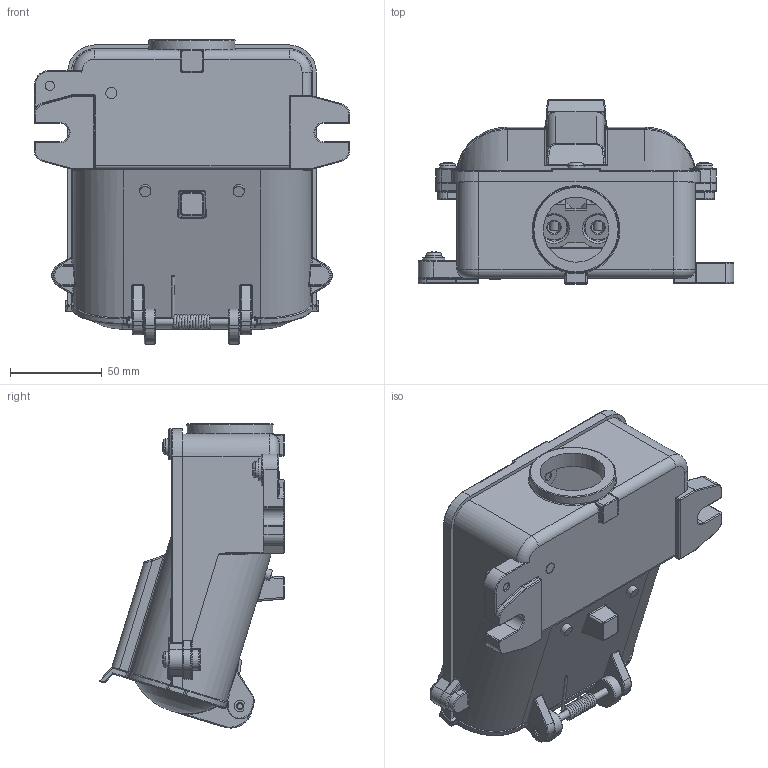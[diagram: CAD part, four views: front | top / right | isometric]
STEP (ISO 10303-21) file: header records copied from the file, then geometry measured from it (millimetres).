
FILE_DESCRIPTION(('Tomada Fixa 63A DIN 49450'),'2;1');
FILE_NAME('E:\WorkFolder\Bibl\3DWeb\Serie\PN\kp_pn_pnf63_step.stp','2022-06-08T11:11:05',('DIE'),('KAP Componentes Eletricos Ltda.'),'Autodesk Inventor 2011','Autodesk Inventor 2011','Direitos reservados. Proibido reproducao, cedencia ou revelacao de conteudo a terceiros, salvo com autorizacao.');
FILE_SCHEMA(('AUTOMOTIVE_DESIGN { 1 0 10303 214 1 1 1 1 }'));
Length unit declared in the file: millimetre
Products named in the file (1): Part17
Bounding box: 172 x 100.48 x 165.84 mm (x, y, z)
Volume: 23443.7 mm3; surface area: 209977.2 mm2
Topology: 8 solids, 9 shells, 2278 faces, 6014 edges, 3723 vertices
Faces by surface type: plane 1068, cylinder 565, bspline 237, cone 163, torus 158, sphere 87
Full cylindrical faces by diameter (mm): 1.5 x3, 3.969 x3, 4.567 x7, 4.917 x2, 5 x2, 5.001 x8, 6 x7, 6.001 x2, 6.4 x3, 6.5 x1, 7 x9, 8 x4, 8.4 x1, 10 x2, 11 x4, 12 x1, 14 x2, 14.287 x4, 15 x4, 18 x2, 35.5 x1, 47 x1
Entity records: 79082 total; most frequent: CARTESIAN_POINT 22740, ORIENTED_EDGE 11424, DIRECTION 11128, EDGE_CURVE 5712, AXIS2_PLACEMENT_3D 4222, VERTEX_POINT 3636, VECTOR 2684, LINE 2684
